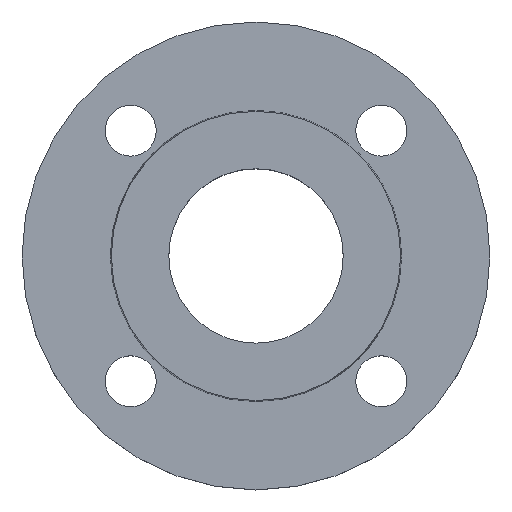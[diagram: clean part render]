
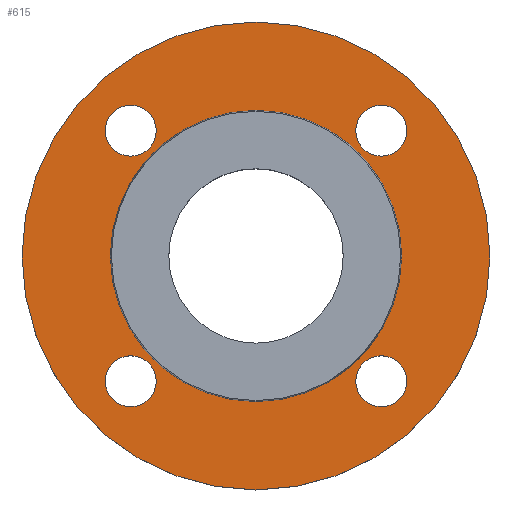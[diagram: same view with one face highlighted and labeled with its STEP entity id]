
A CAD part, top view. The second image highlights one B-rep face of the part: STEP entity #615.
In plain terms, the highlighted planar face has unit normal (0, 0, 1).
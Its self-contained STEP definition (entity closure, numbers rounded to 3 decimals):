
#8 = CIRCLE ( 'NONE', #350, 9. ) ;
#14 = AXIS2_PLACEMENT_3D ( 'NONE', #693, #698, #699 ) ;
#16 = AXIS2_PLACEMENT_3D ( 'NONE', #579, #580, #583 ) ;
#34 = AXIS2_PLACEMENT_3D ( 'NONE', #567, #568, #569 ) ;
#65 = EDGE_CURVE ( 'NONE', #349, #506, #110, .T. ) ;
#70 = DIRECTION ( 'NONE',  ( 1., 0., 0. ) ) ;
#75 = DIRECTION ( 'NONE',  ( 0., 0., -1. ) ) ;
#79 = CARTESIAN_POINT ( 'NONE',  ( 53.194, 44.194, -2. ) ) ;
#82 = DIRECTION ( 'NONE',  ( 0., 0., -1. ) ) ;
#83 = CARTESIAN_POINT ( 'NONE',  ( 35.194, 44.194, -2. ) ) ;
#88 = EDGE_CURVE ( 'NONE', #524, #509, #325, .T. ) ;
#89 = CARTESIAN_POINT ( 'NONE',  ( 82.5, 0., -2. ) ) ;
#101 = CARTESIAN_POINT ( 'NONE',  ( -51.353, 0., -2. ) ) ;
#102 = CIRCLE ( 'NONE', #108, 9. ) ;
#108 = AXIS2_PLACEMENT_3D ( 'NONE', #293, #294, #295 ) ;
#109 = CARTESIAN_POINT ( 'NONE',  ( 0., 0., -2. ) ) ;
#110 = CIRCLE ( 'NONE', #34, 9. ) ;
#112 = CIRCLE ( 'NONE', #471, 9. ) ;
#124 = EDGE_CURVE ( 'NONE', #517, #417, #220, .T. ) ;
#129 = AXIS2_PLACEMENT_3D ( 'NONE', #109, #170, #156 ) ;
#130 = DIRECTION ( 'NONE',  ( 1., 0., 0. ) ) ;
#131 = EDGE_CURVE ( 'NONE', #351, #357, #112, .T. ) ;
#132 = CARTESIAN_POINT ( 'NONE',  ( -35.194, -44.194, -2. ) ) ;
#134 = CARTESIAN_POINT ( 'NONE',  ( -35.194, 44.194, -2. ) ) ;
#138 = CIRCLE ( 'NONE', #141, 9. ) ;
#141 = AXIS2_PLACEMENT_3D ( 'NONE', #169, #75, #130 ) ;
#144 = FACE_BOUND ( 'NONE', #562, .T. ) ;
#156 = DIRECTION ( 'NONE',  ( -1., 0., 0. ) ) ;
#169 = CARTESIAN_POINT ( 'NONE',  ( 44.194, -44.194, -2. ) ) ;
#170 = DIRECTION ( 'NONE',  ( 0., 0., -1. ) ) ;
#172 = CARTESIAN_POINT ( 'NONE',  ( 35.194, -44.194, -2. ) ) ;
#178 = CARTESIAN_POINT ( 'NONE',  ( -53.194, 44.194, -2. ) ) ;
#196 = CIRCLE ( 'NONE', #129, 82.5 ) ;
#199 = EDGE_CURVE ( 'NONE', #357, #351, #329, .T. ) ;
#210 = CARTESIAN_POINT ( 'NONE',  ( -44.194, -44.194, -2. ) ) ;
#220 = CIRCLE ( 'NONE', #377, 51.353 ) ;
#221 = CIRCLE ( 'NONE', #14, 9. ) ;
#229 = DIRECTION ( 'NONE',  ( 1., 0., 0. ) ) ;
#253 = AXIS2_PLACEMENT_3D ( 'NONE', #608, #609, #610 ) ;
#267 = AXIS2_PLACEMENT_3D ( 'NONE', #343, #326, #229 ) ;
#281 = CARTESIAN_POINT ( 'NONE',  ( 51.353, 0., -2. ) ) ;
#284 = CIRCLE ( 'NONE', #482, 51.353 ) ;
#293 = CARTESIAN_POINT ( 'NONE',  ( 44.194, 44.194, -2. ) ) ;
#294 = DIRECTION ( 'NONE',  ( 0., 0., -1. ) ) ;
#295 = DIRECTION ( 'NONE',  ( 1., 0., 0. ) ) ;
#304 = CARTESIAN_POINT ( 'NONE',  ( -82.5, 0., -2. ) ) ;
#320 = CARTESIAN_POINT ( 'NONE',  ( -53.194, -44.194, -2. ) ) ;
#321 = FACE_BOUND ( 'NONE', #546, .T. ) ;
#322 = EDGE_CURVE ( 'NONE', #522, #475, #469, .T. ) ;
#323 = EDGE_CURVE ( 'NONE', #417, #517, #284, .T. ) ;
#324 = PLANE ( 'NONE',  #267 ) ;
#325 = CIRCLE ( 'NONE', #16, 9. ) ;
#326 = DIRECTION ( 'NONE',  ( 0., 0., 1. ) ) ;
#329 = CIRCLE ( 'NONE', #253, 9. ) ;
#331 = EDGE_CURVE ( 'NONE', #513, #354, #221, .T. ) ;
#342 = FACE_BOUND ( 'NONE', #545, .T. ) ;
#343 = CARTESIAN_POINT ( 'NONE',  ( 51.353, 0., -2. ) ) ;
#349 = VERTEX_POINT ( 'NONE', #132 ) ;
#350 = AXIS2_PLACEMENT_3D ( 'NONE', #210, #82, #70 ) ;
#351 = VERTEX_POINT ( 'NONE', #134 ) ;
#354 = VERTEX_POINT ( 'NONE', #172 ) ;
#355 = ORIENTED_EDGE ( 'NONE', *, *, #199, .T. ) ;
#357 = VERTEX_POINT ( 'NONE', #178 ) ;
#377 = AXIS2_PLACEMENT_3D ( 'NONE', #590, #591, #592 ) ;
#409 = CARTESIAN_POINT ( 'NONE',  ( 53.194, -44.194, -2. ) ) ;
#417 = VERTEX_POINT ( 'NONE', #281 ) ;
#432 = AXIS2_PLACEMENT_3D ( 'NONE', #686, #687, #688 ) ;
#434 = EDGE_CURVE ( 'NONE', #509, #524, #102, .T. ) ;
#435 = ORIENTED_EDGE ( 'NONE', *, *, #331, .T. ) ;
#436 = ORIENTED_EDGE ( 'NONE', *, *, #635, .T. ) ;
#438 = ORIENTED_EDGE ( 'NONE', *, *, #65, .T. ) ;
#439 = ORIENTED_EDGE ( 'NONE', *, *, #654, .T. ) ;
#440 = ORIENTED_EDGE ( 'NONE', *, *, #131, .T. ) ;
#441 = ORIENTED_EDGE ( 'NONE', *, *, #88, .T. ) ;
#442 = ORIENTED_EDGE ( 'NONE', *, *, #124, .T. ) ;
#443 = ORIENTED_EDGE ( 'NONE', *, *, #323, .T. ) ;
#444 = ORIENTED_EDGE ( 'NONE', *, *, #322, .F. ) ;
#445 = ORIENTED_EDGE ( 'NONE', *, *, #593, .F. ) ;
#469 = CIRCLE ( 'NONE', #432, 82.5 ) ;
#471 = AXIS2_PLACEMENT_3D ( 'NONE', #594, #595, #596 ) ;
#475 = VERTEX_POINT ( 'NONE', #304 ) ;
#480 = ORIENTED_EDGE ( 'NONE', *, *, #434, .T. ) ;
#482 = AXIS2_PLACEMENT_3D ( 'NONE', #689, #690, #691 ) ;
#506 = VERTEX_POINT ( 'NONE', #320 ) ;
#509 = VERTEX_POINT ( 'NONE', #79 ) ;
#513 = VERTEX_POINT ( 'NONE', #409 ) ;
#517 = VERTEX_POINT ( 'NONE', #101 ) ;
#522 = VERTEX_POINT ( 'NONE', #89 ) ;
#524 = VERTEX_POINT ( 'NONE', #83 ) ;
#535 = EDGE_LOOP ( 'NONE', ( #444, #445 ) ) ;
#538 = EDGE_LOOP ( 'NONE', ( #442, #443 ) ) ;
#541 = EDGE_LOOP ( 'NONE', ( #480, #441 ) ) ;
#545 = EDGE_LOOP ( 'NONE', ( #440, #355 ) ) ;
#546 = EDGE_LOOP ( 'NONE', ( #438, #439 ) ) ;
#562 = EDGE_LOOP ( 'NONE', ( #435, #436 ) ) ;
#567 = CARTESIAN_POINT ( 'NONE',  ( -44.194, -44.194, -2. ) ) ;
#568 = DIRECTION ( 'NONE',  ( 0., 0., -1. ) ) ;
#569 = DIRECTION ( 'NONE',  ( 1., 0., 0. ) ) ;
#579 = CARTESIAN_POINT ( 'NONE',  ( 44.194, 44.194, -2. ) ) ;
#580 = DIRECTION ( 'NONE',  ( 0., 0., -1. ) ) ;
#583 = DIRECTION ( 'NONE',  ( 1., 0., 0. ) ) ;
#590 = CARTESIAN_POINT ( 'NONE',  ( 0., 0., -2. ) ) ;
#591 = DIRECTION ( 'NONE',  ( 0., 0., -1. ) ) ;
#592 = DIRECTION ( 'NONE',  ( -1., 0., 0. ) ) ;
#593 = EDGE_CURVE ( 'NONE', #475, #522, #196, .T. ) ;
#594 = CARTESIAN_POINT ( 'NONE',  ( -44.194, 44.194, -2. ) ) ;
#595 = DIRECTION ( 'NONE',  ( 0., 0., -1. ) ) ;
#596 = DIRECTION ( 'NONE',  ( 1., 0., 0. ) ) ;
#608 = CARTESIAN_POINT ( 'NONE',  ( -44.194, 44.194, -2. ) ) ;
#609 = DIRECTION ( 'NONE',  ( 0., 0., -1. ) ) ;
#610 = DIRECTION ( 'NONE',  ( 1., 0., 0. ) ) ;
#615 = ADVANCED_FACE ( 'NONE', ( #144, #321, #342, #717, #718, #720 ), #324, .T. ) ;
#635 = EDGE_CURVE ( 'NONE', #354, #513, #138, .T. ) ;
#654 = EDGE_CURVE ( 'NONE', #506, #349, #8, .T. ) ;
#686 = CARTESIAN_POINT ( 'NONE',  ( 0., 0., -2. ) ) ;
#687 = DIRECTION ( 'NONE',  ( 0., 0., -1. ) ) ;
#688 = DIRECTION ( 'NONE',  ( -1., 0., 0. ) ) ;
#689 = CARTESIAN_POINT ( 'NONE',  ( 0., 0., -2. ) ) ;
#690 = DIRECTION ( 'NONE',  ( 0., 0., -1. ) ) ;
#691 = DIRECTION ( 'NONE',  ( -1., 0., 0. ) ) ;
#693 = CARTESIAN_POINT ( 'NONE',  ( 44.194, -44.194, -2. ) ) ;
#698 = DIRECTION ( 'NONE',  ( 0., 0., -1. ) ) ;
#699 = DIRECTION ( 'NONE',  ( 1., 0., 0. ) ) ;
#717 = FACE_BOUND ( 'NONE', #541, .T. ) ;
#718 = FACE_BOUND ( 'NONE', #538, .T. ) ;
#720 = FACE_OUTER_BOUND ( 'NONE', #535, .T. ) ;
